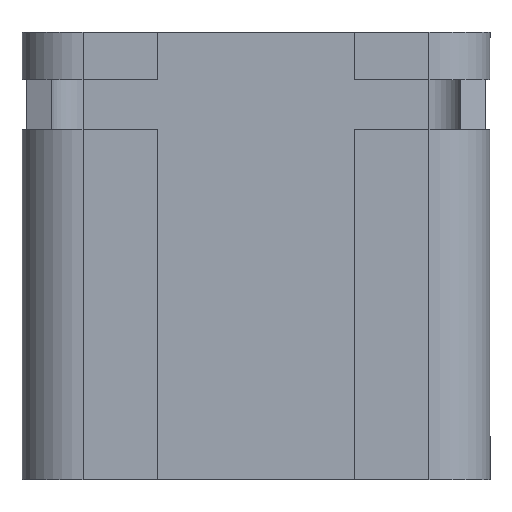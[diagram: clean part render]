
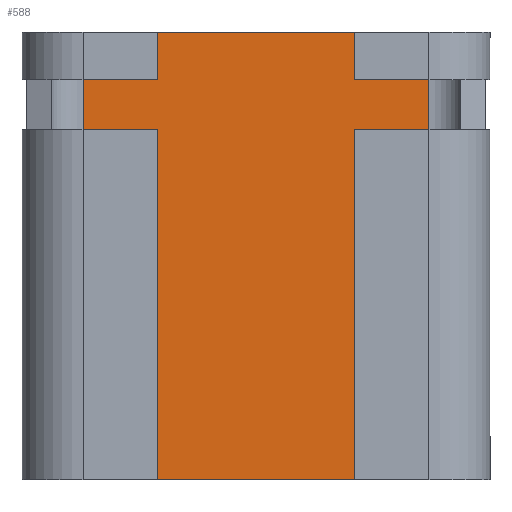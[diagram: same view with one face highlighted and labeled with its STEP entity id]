
A CAD part, front view. The second image highlights one B-rep face of the part: STEP entity #588.
In plain terms, the highlighted planar face has unit normal (0, -1, 0).
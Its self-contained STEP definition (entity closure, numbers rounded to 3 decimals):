
#6 = DIRECTION ( 'NONE',  ( 1., 0., 0. ) ) ;
#56 = VECTOR ( 'NONE', #709, 1000. ) ;
#196 = FACE_OUTER_BOUND ( 'NONE', #1174, .T. ) ;
#316 = AXIS2_PLACEMENT_3D ( 'NONE', #536, #689, #1939 ) ;
#322 = ORIENTED_EDGE ( 'NONE', *, *, #400, .T. ) ;
#377 = LINE ( 'NONE', #990, #1956 ) ;
#400 = EDGE_CURVE ( 'NONE', #797, #1082, #862, .T. ) ;
#458 = CARTESIAN_POINT ( 'NONE',  ( -2., 2.45, -6.6 ) ) ;
#534 = DIRECTION ( 'NONE',  ( 0., 0., 1. ) ) ;
#536 = CARTESIAN_POINT ( 'NONE',  ( -2., 2.45, -6.6 ) ) ;
#551 = VERTEX_POINT ( 'NONE', #786 ) ;
#588 = ADVANCED_FACE ( 'NONE', ( #196 ), #815, .T. ) ;
#652 = CARTESIAN_POINT ( 'NONE',  ( -1.1, 2.45, -6.6 ) ) ;
#689 = DIRECTION ( 'NONE',  ( 0., -1., 0. ) ) ;
#709 = DIRECTION ( 'NONE',  ( 0., 0., 1. ) ) ;
#786 = CARTESIAN_POINT ( 'NONE',  ( -1.1, 2.45, -6.6 ) ) ;
#797 = VERTEX_POINT ( 'NONE', #1179 ) ;
#815 = PLANE ( 'NONE',  #316 ) ;
#862 = LINE ( 'NONE', #1172, #56 ) ;
#931 = CARTESIAN_POINT ( 'NONE',  ( -1.1, 2.45, 0. ) ) ;
#943 = EDGE_CURVE ( 'NONE', #551, #1562, #1926, .T. ) ;
#990 = CARTESIAN_POINT ( 'NONE',  ( -2., 2.45, 0. ) ) ;
#1031 = CARTESIAN_POINT ( 'NONE',  ( 4., 2.45, 0. ) ) ;
#1072 = DIRECTION ( 'NONE',  ( 1., 0., 0. ) ) ;
#1082 = VERTEX_POINT ( 'NONE', #1031 ) ;
#1122 = VECTOR ( 'NONE', #534, 1000. ) ;
#1172 = CARTESIAN_POINT ( 'NONE',  ( 4., 2.45, -6.6 ) ) ;
#1174 = EDGE_LOOP ( 'NONE', ( #1314, #1739, #1517, #322 ) ) ;
#1179 = CARTESIAN_POINT ( 'NONE',  ( 4., 2.45, -6.6 ) ) ;
#1314 = ORIENTED_EDGE ( 'NONE', *, *, #1524, .F. ) ;
#1338 = VECTOR ( 'NONE', #1072, 1000. ) ;
#1517 = ORIENTED_EDGE ( 'NONE', *, *, #1677, .T. ) ;
#1524 = EDGE_CURVE ( 'NONE', #1562, #1082, #377, .T. ) ;
#1562 = VERTEX_POINT ( 'NONE', #931 ) ;
#1677 = EDGE_CURVE ( 'NONE', #551, #797, #1857, .T. ) ;
#1739 = ORIENTED_EDGE ( 'NONE', *, *, #943, .F. ) ;
#1857 = LINE ( 'NONE', #458, #1338 ) ;
#1926 = LINE ( 'NONE', #652, #1122 ) ;
#1939 = DIRECTION ( 'NONE',  ( 0., 0., -1. ) ) ;
#1956 = VECTOR ( 'NONE', #6, 1000. ) ;
